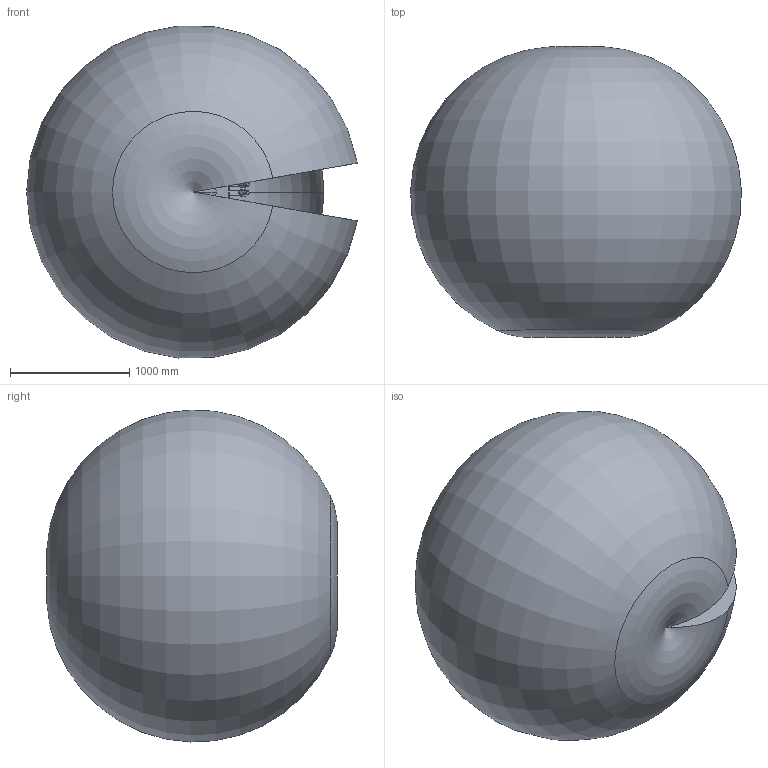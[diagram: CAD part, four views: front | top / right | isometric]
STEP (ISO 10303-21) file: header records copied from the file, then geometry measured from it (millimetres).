
FILE_DESCRIPTION (( 'STEP AP214' ), '1' );
FILE_NAME ('SMART SiX 6-1,4_050427 (3D-STEP).STEP', '2006-10-13T12:59:02', ( ' ' ), ( ' ' ), 'SwSTEP 2.0', 'SolidWorks 2005235', '' );
FILE_SCHEMA (( 'AUTOMOTIVE_DESIGN' ));
Length unit declared in the file: millimetre
Products named in the file (14): Area lavoro SMART SiX; CR82220801-041027; Motore Size 2+ (ax2)_semplificato; CR82309005-040825-SM; Motore Size 2 (ax1-3)_semplificato; SMART SiX 6-1,4_050427 (3D-STEP); CR82220809-041027; CR82220802-041027; CR82220806-041027; CR82220807-041027; CR82220808-041027; CR82220803-041027; CR82220804-041027; CR82220805-041027
Assembly tree (14 placements, depth 2):
  SMART SiX 6-1,4_050427 (3D-STEP)
    CR82309005-040825-SM
    CR82220807-041027
    Motore Size 2 (ax1-3)_semplificato  x2
    Motore Size 2+ (ax2)_semplificato
    CR82220803-041027
    CR82220802-041027
    CR82220805-041027
    CR82220806-041027
    CR82220809-041027
    CR82220801-041027
    CR82220808-041027
    Area lavoro SMART SiX
    CR82220804-041027
Bounding box: 2777.69 x 2443.12 x 2788.3 mm (x, y, z)
Volume: 9867951155.2 mm3; surface area: 32539658.5 mm2
Topology: 14 solids, 14 shells, 2280 faces, 6144 edges, 3935 vertices
Faces by surface type: plane 973, cylinder 725, bspline 321, cone 201, torus 46, sphere 14
Entity records: 133549 total; most frequent: CARTESIAN_POINT 71095, ORIENTED_EDGE 11608, DIRECTION 10235, EDGE_CURVE 5804, VERTEX_POINT 3798, AXIS2_PLACEMENT_3D 3535, VECTOR 3165, LINE 3165
